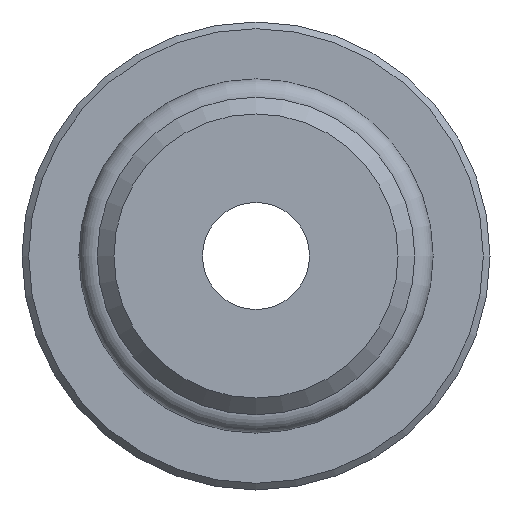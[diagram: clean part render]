
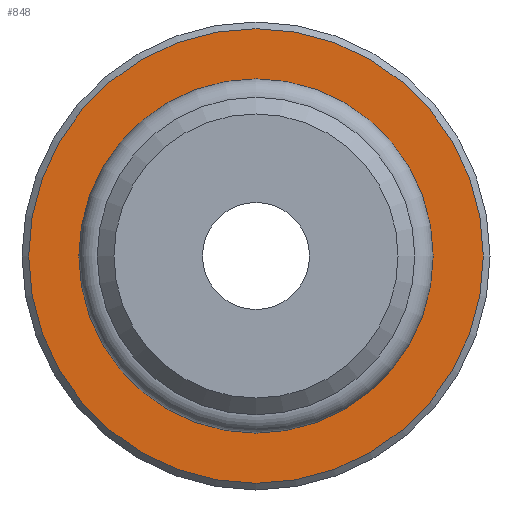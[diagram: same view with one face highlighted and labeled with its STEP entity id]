
A CAD part, front view. The second image highlights one B-rep face of the part: STEP entity #848.
In plain terms, the highlighted planar face has unit normal (0, -1, 0).
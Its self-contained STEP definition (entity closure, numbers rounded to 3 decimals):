
#180=PLANE('',#928);
#195=FACE_BOUND('',#320,.T.);
#253=FACE_OUTER_BOUND('',#319,.T.);
#319=EDGE_LOOP('',(#746));
#320=EDGE_LOOP('',(#747));
#380=CIRCLE('',#927,6.8);
#381=CIRCLE('',#929,5.3);
#458=VERTEX_POINT('',#1427);
#459=VERTEX_POINT('',#1430);
#565=EDGE_CURVE('',#458,#458,#380,.T.);
#566=EDGE_CURVE('',#459,#459,#381,.T.);
#746=ORIENTED_EDGE('',*,*,#565,.T.);
#747=ORIENTED_EDGE('',*,*,#566,.F.);
#848=ADVANCED_FACE('',(#253,#195),#180,.T.);
#927=AXIS2_PLACEMENT_3D('',#1428,#1138,#1139);
#928=AXIS2_PLACEMENT_3D('',#1429,#1140,#1141);
#929=AXIS2_PLACEMENT_3D('',#1431,#1142,#1143);
#1138=DIRECTION('center_axis',(0.,-1.,0.));
#1139=DIRECTION('ref_axis',(1.,0.,0.));
#1140=DIRECTION('center_axis',(0.,-1.,0.));
#1141=DIRECTION('ref_axis',(0.,0.,-1.));
#1142=DIRECTION('center_axis',(0.,-1.,0.));
#1143=DIRECTION('ref_axis',(1.,0.,0.));
#1427=CARTESIAN_POINT('',(6.8,6.,0.));
#1428=CARTESIAN_POINT('Origin',(0.,6.,0.));
#1429=CARTESIAN_POINT('Origin',(5.3,6.,0.));
#1430=CARTESIAN_POINT('',(5.3,6.,0.));
#1431=CARTESIAN_POINT('Origin',(0.,6.,0.));
